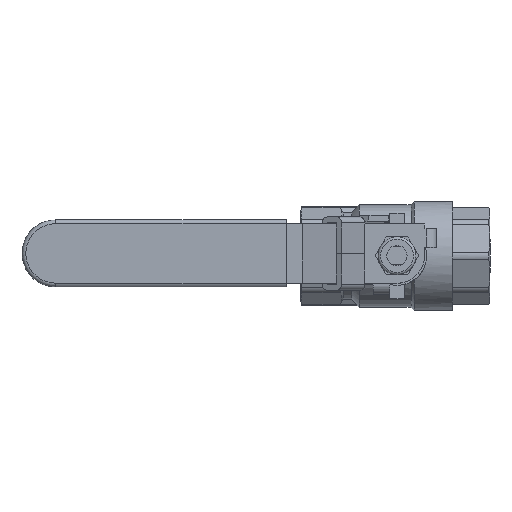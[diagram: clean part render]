
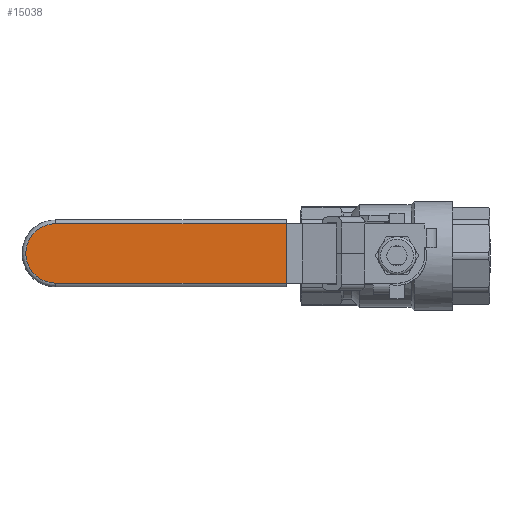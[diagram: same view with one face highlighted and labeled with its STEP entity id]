
A CAD part, top view. The second image highlights one B-rep face of the part: STEP entity #15038.
In plain terms, the highlighted planar face has unit normal (0, 0, 1).
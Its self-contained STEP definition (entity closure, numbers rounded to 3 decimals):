
#44 = PLANE('',#45);
#45 = AXIS2_PLACEMENT_3D('',#46,#47,#48);
#46 = CARTESIAN_POINT('',(-0.188,1.676,2.66)
  );
#47 = DIRECTION('',(-1.,0.,0.));
#48 = DIRECTION('',(0.,0.,-1.));
#14455 = VERTEX_POINT('',#14456);
#14456 = CARTESIAN_POINT('',(-0.188,1.183,
    3.06));
#14471 = CYLINDRICAL_SURFACE('',#14472,0.05);
#14472 = AXIS2_PLACEMENT_3D('',#14473,#14474,#14475);
#14473 = CARTESIAN_POINT('',(-2.489,1.183,
    3.01));
#14474 = DIRECTION('',(1.,0.,0.));
#14475 = DIRECTION('',(0.,0.707,0.707));
#14483 = EDGE_CURVE('',#14484,#14455,#14486,.T.);
#14484 = VERTEX_POINT('',#14485);
#14485 = CARTESIAN_POINT('',(-0.188,0.393,
    3.06));
#14486 = SURFACE_CURVE('',#14487,(#14491,#14498),.PCURVE_S1.);
#14487 = LINE('',#14488,#14489);
#14488 = CARTESIAN_POINT('',(-0.188,1.232,
    3.06));
#14489 = VECTOR('',#14490,1.);
#14490 = DIRECTION('',(0.,1.,0.));
#14491 = PCURVE('',#44,#14492);
#14492 = DEFINITIONAL_REPRESENTATION('',(#14493),#14497);
#14493 = LINE('',#14494,#14495);
#14494 = CARTESIAN_POINT('',(-0.4,0.444));
#14495 = VECTOR('',#14496,1.);
#14496 = DIRECTION('',(0.,-1.));
#14497 = ( GEOMETRIC_REPRESENTATION_CONTEXT(2) 
PARAMETRIC_REPRESENTATION_CONTEXT() REPRESENTATION_CONTEXT('2D SPACE',''
  ) );
#14498 = PCURVE('',#14499,#14504);
#14499 = PLANE('',#14500);
#14500 = AXIS2_PLACEMENT_3D('',#14501,#14502,#14503);
#14501 = CARTESIAN_POINT('',(-1.718,0.788,
    3.06));
#14502 = DIRECTION('',(0.,0.,1.));
#14503 = DIRECTION('',(1.,0.,0.));
#14504 = DEFINITIONAL_REPRESENTATION('',(#14505),#14509);
#14505 = LINE('',#14506,#14507);
#14506 = CARTESIAN_POINT('',(1.53,0.444));
#14507 = VECTOR('',#14508,1.);
#14508 = DIRECTION('',(0.,1.));
#14509 = ( GEOMETRIC_REPRESENTATION_CONTEXT(2) 
PARAMETRIC_REPRESENTATION_CONTEXT() REPRESENTATION_CONTEXT('2D SPACE',''
  ) );
#14528 = CYLINDRICAL_SURFACE('',#14529,0.05);
#14529 = AXIS2_PLACEMENT_3D('',#14530,#14531,#14532);
#14530 = CARTESIAN_POINT('',(-0.812,0.393,
    3.01));
#14531 = DIRECTION('',(-1.,0.,0.));
#14532 = DIRECTION('',(0.,-0.707,
    0.707));
#14594 = VERTEX_POINT('',#14595);
#14595 = CARTESIAN_POINT('',(-3.261,1.183,
    3.06));
#14610 = TOROIDAL_SURFACE('',#14611,0.395,0.05);
#14611 = AXIS2_PLACEMENT_3D('',#14612,#14613,#14614);
#14612 = CARTESIAN_POINT('',(-3.261,0.788,
    3.01));
#14613 = DIRECTION('',(0.,0.,-1.));
#14614 = DIRECTION('',(-1.,0.,0.));
#14622 = EDGE_CURVE('',#14594,#14455,#14623,.T.);
#14623 = SURFACE_CURVE('',#14624,(#14628,#14635),.PCURVE_S1.);
#14624 = LINE('',#14625,#14626);
#14625 = CARTESIAN_POINT('',(-2.489,1.183,
    3.06));
#14626 = VECTOR('',#14627,1.);
#14627 = DIRECTION('',(1.,0.,0.));
#14628 = PCURVE('',#14471,#14629);
#14629 = DEFINITIONAL_REPRESENTATION('',(#14630),#14634);
#14630 = LINE('',#14631,#14632);
#14631 = CARTESIAN_POINT('',(0.785,0.));
#14632 = VECTOR('',#14633,1.);
#14633 = DIRECTION('',(0.,1.));
#14634 = ( GEOMETRIC_REPRESENTATION_CONTEXT(2) 
PARAMETRIC_REPRESENTATION_CONTEXT() REPRESENTATION_CONTEXT('2D SPACE',''
  ) );
#14635 = PCURVE('',#14499,#14636);
#14636 = DEFINITIONAL_REPRESENTATION('',(#14637),#14641);
#14637 = LINE('',#14638,#14639);
#14638 = CARTESIAN_POINT('',(-0.772,0.395));
#14639 = VECTOR('',#14640,1.);
#14640 = DIRECTION('',(1.,0.));
#14641 = ( GEOMETRIC_REPRESENTATION_CONTEXT(2) 
PARAMETRIC_REPRESENTATION_CONTEXT() REPRESENTATION_CONTEXT('2D SPACE',''
  ) );
#14961 = EDGE_CURVE('',#14484,#14962,#14964,.T.);
#14962 = VERTEX_POINT('',#14963);
#14963 = CARTESIAN_POINT('',(-3.261,0.393,
    3.06));
#14964 = SURFACE_CURVE('',#14965,(#14969,#14976),.PCURVE_S1.);
#14965 = LINE('',#14966,#14967);
#14966 = CARTESIAN_POINT('',(-0.812,0.393,
    3.06));
#14967 = VECTOR('',#14968,1.);
#14968 = DIRECTION('',(-1.,0.,0.));
#14969 = PCURVE('',#14528,#14970);
#14970 = DEFINITIONAL_REPRESENTATION('',(#14971),#14975);
#14971 = LINE('',#14972,#14973);
#14972 = CARTESIAN_POINT('',(0.785,0.));
#14973 = VECTOR('',#14974,1.);
#14974 = DIRECTION('',(0.,1.));
#14975 = ( GEOMETRIC_REPRESENTATION_CONTEXT(2) 
PARAMETRIC_REPRESENTATION_CONTEXT() REPRESENTATION_CONTEXT('2D SPACE',''
  ) );
#14976 = PCURVE('',#14499,#14977);
#14977 = DEFINITIONAL_REPRESENTATION('',(#14978),#14982);
#14978 = LINE('',#14979,#14980);
#14979 = CARTESIAN_POINT('',(0.906,-0.395));
#14980 = VECTOR('',#14981,1.);
#14981 = DIRECTION('',(-1.,0.));
#14982 = ( GEOMETRIC_REPRESENTATION_CONTEXT(2) 
PARAMETRIC_REPRESENTATION_CONTEXT() REPRESENTATION_CONTEXT('2D SPACE',''
  ) );
#15013 = EDGE_CURVE('',#14962,#14594,#15014,.T.);
#15014 = SURFACE_CURVE('',#15015,(#15020,#15027),.PCURVE_S1.);
#15015 = CIRCLE('',#15016,0.395);
#15016 = AXIS2_PLACEMENT_3D('',#15017,#15018,#15019);
#15017 = CARTESIAN_POINT('',(-3.261,0.788,
    3.06));
#15018 = DIRECTION('',(0.,0.,-1.));
#15019 = DIRECTION('',(-1.,0.,0.));
#15020 = PCURVE('',#14610,#15021);
#15021 = DEFINITIONAL_REPRESENTATION('',(#15022),#15026);
#15022 = LINE('',#15023,#15024);
#15023 = CARTESIAN_POINT('',(0.,4.712));
#15024 = VECTOR('',#15025,1.);
#15025 = DIRECTION('',(1.,0.));
#15026 = ( GEOMETRIC_REPRESENTATION_CONTEXT(2) 
PARAMETRIC_REPRESENTATION_CONTEXT() REPRESENTATION_CONTEXT('2D SPACE',''
  ) );
#15027 = PCURVE('',#14499,#15028);
#15028 = DEFINITIONAL_REPRESENTATION('',(#15029),#15037);
#15029 = ( BOUNDED_CURVE() B_SPLINE_CURVE(2,(#15030,#15031,#15032,#15033
    ,#15034,#15035,#15036),.UNSPECIFIED.,.T.,.F.) 
B_SPLINE_CURVE_WITH_KNOTS((1,2,2,2,2,1),(-2.094,0.,
    2.094,4.189,6.283,8.378),
.UNSPECIFIED.) CURVE() GEOMETRIC_REPRESENTATION_ITEM() 
RATIONAL_B_SPLINE_CURVE((1.,0.5,1.,0.5,1.,0.5,1.)) REPRESENTATION_ITEM(
  '') );
#15030 = CARTESIAN_POINT('',(-1.938,0.));
#15031 = CARTESIAN_POINT('',(-1.938,0.684));
#15032 = CARTESIAN_POINT('',(-1.346,0.342));
#15033 = CARTESIAN_POINT('',(-0.753,0.));
#15034 = CARTESIAN_POINT('',(-1.346,-0.342));
#15035 = CARTESIAN_POINT('',(-1.938,-0.684));
#15036 = CARTESIAN_POINT('',(-1.938,0.));
#15037 = ( GEOMETRIC_REPRESENTATION_CONTEXT(2) 
PARAMETRIC_REPRESENTATION_CONTEXT() REPRESENTATION_CONTEXT('2D SPACE',''
  ) );
#15038 = ADVANCED_FACE('',(#15039),#14499,.T.);
#15039 = FACE_BOUND('',#15040,.T.);
#15040 = EDGE_LOOP('',(#15041,#15042,#15043,#15044));
#15041 = ORIENTED_EDGE('',*,*,#14483,.T.);
#15042 = ORIENTED_EDGE('',*,*,#14622,.F.);
#15043 = ORIENTED_EDGE('',*,*,#15013,.F.);
#15044 = ORIENTED_EDGE('',*,*,#14961,.F.);
